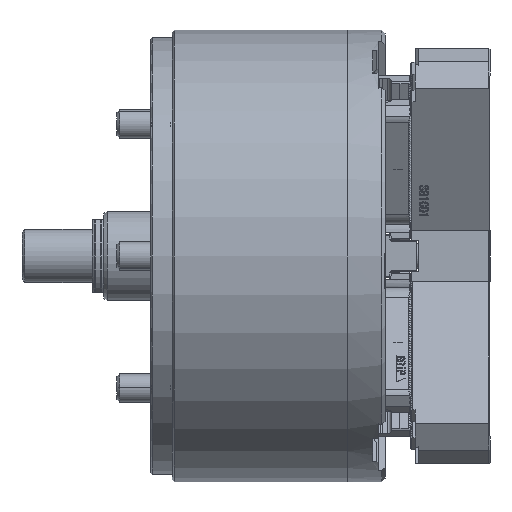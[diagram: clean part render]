
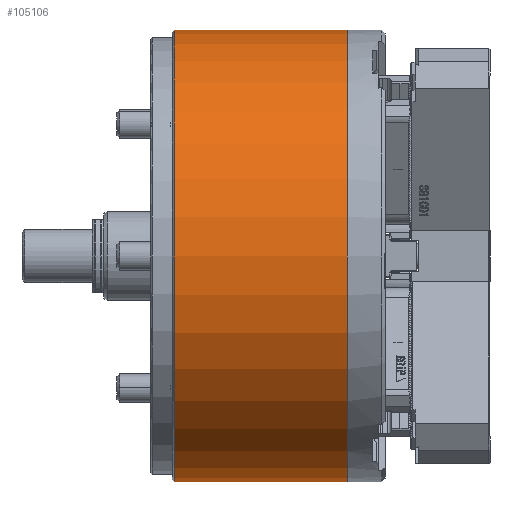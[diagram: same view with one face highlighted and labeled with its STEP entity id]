
A CAD part, front view. The second image highlights one B-rep face of the part: STEP entity #105106.
In plain terms, the highlighted cylindrical face has radius 127 mm (diameter 254 mm), a partial arc.
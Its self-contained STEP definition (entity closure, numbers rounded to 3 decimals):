
#1384 = ORIENTED_EDGE ( 'NONE', *, *, #53518, .T. ) ;
#7771 = VERTEX_POINT ( 'NONE', #143079 ) ;
#35910 = VERTEX_POINT ( 'NONE', #126111 ) ;
#37097 = DIRECTION ( 'NONE',  ( 1., 0., 0. ) ) ;
#37367 = CARTESIAN_POINT ( 'NONE',  ( -104.7, 0., 0. ) ) ;
#45307 = LINE ( 'NONE', #111743, #140865 ) ;
#45818 = VERTEX_POINT ( 'NONE', #72173 ) ;
#49899 = DIRECTION ( 'NONE',  ( 0., 0., -1. ) ) ;
#51265 = AXIS2_PLACEMENT_3D ( 'NONE', #37367, #124585, #49899 ) ;
#53518 = EDGE_CURVE ( 'NONE', #45818, #7771, #45307, .T. ) ;
#53968 = DIRECTION ( 'NONE',  ( 1., 0., 0. ) ) ;
#63704 = DIRECTION ( 'NONE',  ( 1., 0., 0. ) ) ;
#64794 = FACE_OUTER_BOUND ( 'NONE', #149666, .T. ) ;
#71956 = LINE ( 'NONE', #103598, #75851 ) ;
#72173 = CARTESIAN_POINT ( 'NONE',  ( -104.7, 0., -127. ) ) ;
#75851 = VECTOR ( 'NONE', #53968, 1000. ) ;
#78525 = DIRECTION ( 'NONE',  ( 1., 0., 0. ) ) ;
#84356 = ORIENTED_EDGE ( 'NONE', *, *, #145039, .F. ) ;
#87905 = ORIENTED_EDGE ( 'NONE', *, *, #105992, .T. ) ;
#91118 = CARTESIAN_POINT ( 'NONE',  ( 0., 0., 0. ) ) ;
#93978 = AXIS2_PLACEMENT_3D ( 'NONE', #91118, #78525, #115614 ) ;
#99694 = CIRCLE ( 'NONE', #51265, 127. ) ;
#101102 = CARTESIAN_POINT ( 'NONE',  ( -104.7, 0., 127. ) ) ;
#103598 = CARTESIAN_POINT ( 'NONE',  ( 0., 0., 127. ) ) ;
#105106 = ADVANCED_FACE ( 'NONE', ( #64794 ), #127206, .T. ) ;
#105992 = EDGE_CURVE ( 'NONE', #156431, #45818, #99694, .T. ) ;
#111743 = CARTESIAN_POINT ( 'NONE',  ( 0., 0., -127. ) ) ;
#115614 = DIRECTION ( 'NONE',  ( 0., 0., -1. ) ) ;
#124585 = DIRECTION ( 'NONE',  ( 1., 0., 0. ) ) ;
#125426 = ORIENTED_EDGE ( 'NONE', *, *, #150957, .F. ) ;
#126111 = CARTESIAN_POINT ( 'NONE',  ( -7.4, 0., 127. ) ) ;
#127206 = CYLINDRICAL_SURFACE ( 'NONE', #93978, 127. ) ;
#138366 = CARTESIAN_POINT ( 'NONE',  ( -7.4, 0., 0. ) ) ;
#138819 = CIRCLE ( 'NONE', #144411, 127. ) ;
#140865 = VECTOR ( 'NONE', #37097, 1000. ) ;
#143079 = CARTESIAN_POINT ( 'NONE',  ( -7.4, 0., -127. ) ) ;
#144411 = AXIS2_PLACEMENT_3D ( 'NONE', #138366, #63704, #150935 ) ;
#145039 = EDGE_CURVE ( 'NONE', #156431, #35910, #71956, .T. ) ;
#149666 = EDGE_LOOP ( 'NONE', ( #84356, #87905, #1384, #125426 ) ) ;
#150935 = DIRECTION ( 'NONE',  ( 0., 0., -1. ) ) ;
#150957 = EDGE_CURVE ( 'NONE', #35910, #7771, #138819, .T. ) ;
#156431 = VERTEX_POINT ( 'NONE', #101102 ) ;
